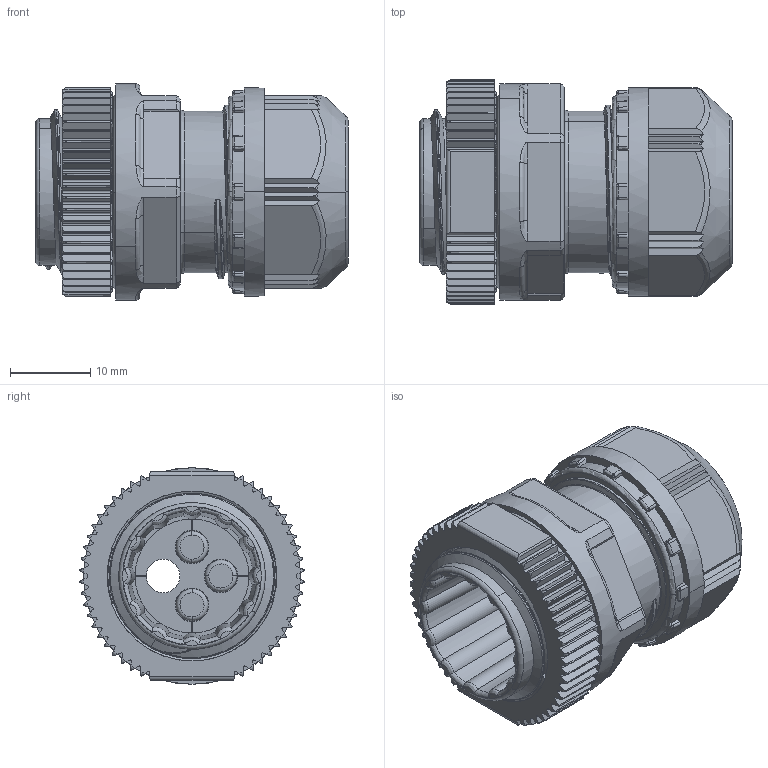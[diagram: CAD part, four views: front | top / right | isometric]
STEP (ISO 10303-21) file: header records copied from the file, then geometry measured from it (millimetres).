
FILE_DESCRIPTION(('Creo Elements/Direct Modeling STEP Export'),'2;1');
FILE_NAME('H11-0009-CL901-02_OA-W16-0404RS.stp','2021-11-26T13:04:30',(''),(''),'Creo Elements/Direct Modeling STEP processor for AP214 (Solid Model)','Creo Elements/Direct Modeling 20.3B 05-Dec-2020 (C) Parametric Technology GmbH','');
FILE_SCHEMA(('AUTOMOTIVE_DESIGN { 1 0 10303 214 1 1 1 1 }'));
Length unit declared in the file: millimetre
Products named in the file (5): LN-CTG16P; BB-040S_1; Rubber bushing; Nipplle; OA-W16-0404RS
Assembly tree (6 placements, depth 2):
  OA-W16-0404RS
    BB-040S_1  x3
    Nipplle
    Rubber bushing
    LN-CTG16P
Bounding box: 38.98 x 27.96 x 27 mm (x, y, z)
Volume: 13410.4 mm3; surface area: 11965.6 mm2
Topology: 6 solids, 6 shells, 1190 faces, 3239 edges, 2030 vertices
Faces by surface type: plane 392, cylinder 381, bspline 189, torus 135, sphere 50, cone 43
Entity records: 59519 total; most frequent: CARTESIAN_POINT 32769, ORIENTED_EDGE 6146, DIRECTION 4684, EDGE_CURVE 3073, VERTEX_POINT 1944, AXIS2_PLACEMENT_3D 1750, VECTOR 1184, LINE 1184
